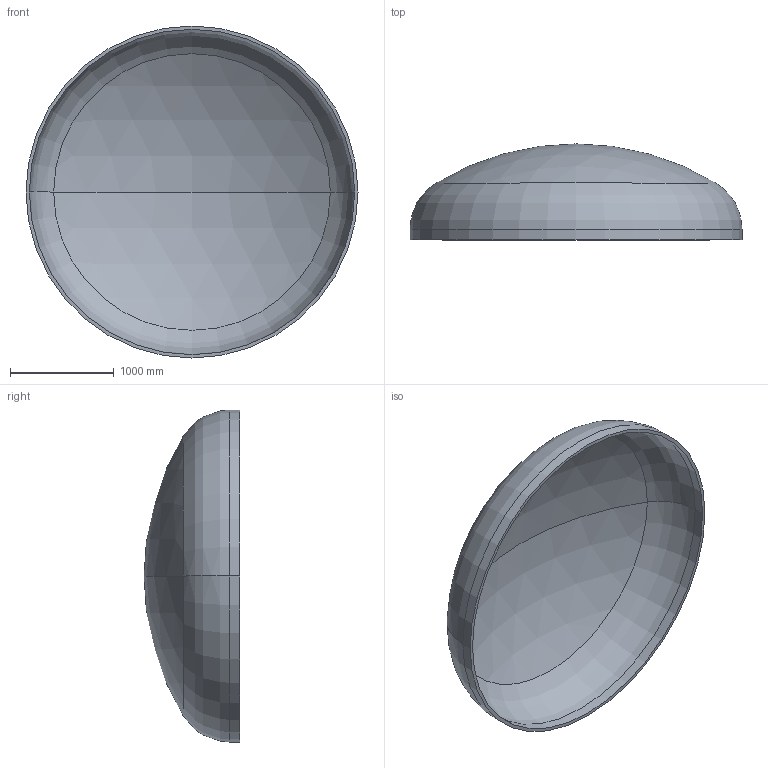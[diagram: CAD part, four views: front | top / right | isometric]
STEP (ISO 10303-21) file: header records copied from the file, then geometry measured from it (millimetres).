
FILE_DESCRIPTION (( 'STEP AP203' ), '1' );
FILE_NAME ('DIN 28013 Korbbogenform_-_Boden DIN 28013 - 3200 x 100 - I - s=32.step', '2016-07-01T18:31:27', ( '' ), ( '' ), 'SwSTEP 2.0', 'SolidWorks 2013', '' );
FILE_SCHEMA (( 'CONFIG_CONTROL_DESIGN' ));
Length unit declared in the file: millimetre
Products named in the file (1): DIN 28013 Korbbogenform_-_Boden DIN 28013 - 3200 x 100 - I - s=32
Bounding box: 3200 x 924.85 x 3200 mm (x, y, z)
Volume: 383212483.7 mm3; surface area: 24271398.1 mm2
Topology: 1 solids, 1 shells, 13 faces, 24 edges, 14 vertices
Faces by surface type: torus 4, cylinder 4, sphere 4, plane 1
Entity records: 407 total; most frequent: DIRECTION 72, CARTESIAN_POINT 52, ORIENTED_EDGE 48, AXIS2_PLACEMENT_3D 34, EDGE_CURVE 24, CIRCLE 20, VERTEX_POINT 14, EDGE_LOOP 14
